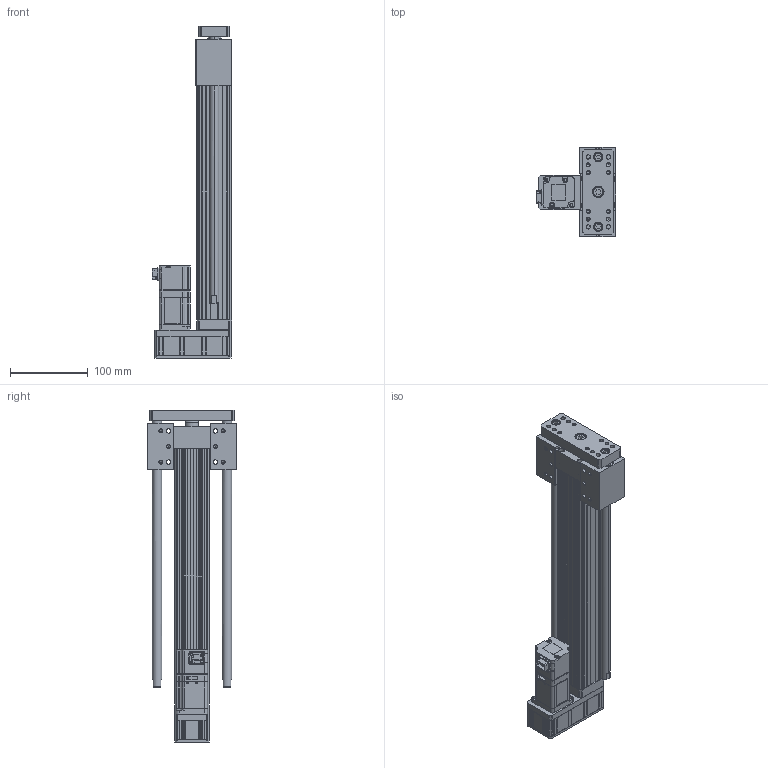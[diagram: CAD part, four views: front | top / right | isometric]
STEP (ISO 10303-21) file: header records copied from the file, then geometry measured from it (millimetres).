
FILE_DESCRIPTION (( 'STEP AP203' ), '1' );
FILE_NAME ('ANS045-HP250-05(10)-W10.STEP', '2019-02-14T03:05:02', ( 'user' ), ( '' ), 'SwSTEP 2.0', 'SolidWorks 2013', '' );
FILE_SCHEMA (( 'CONFIG_CONTROL_DESIGN' ));
Length unit declared in the file: millimetre
Products named in the file (4): ANS045 HP250 VER2; ANS045 ROD ST250 H; SGMJV_01A_A21; ANS045-HP250-05(10)-W10
Assembly tree (3 placements, depth 2):
  ANS045-HP250-05(10)-W10
    ANS045 HP250 VER2
    ANS045 ROD ST250 H
    SGMJV_01A_A21
Bounding box: 102.3 x 115 x 427.5 mm (x, y, z)
Volume: 982607.3 mm3; surface area: 295814.1 mm2
Topology: 3 solids, 11 shells, 1245 faces, 3210 edges, 2044 vertices
Faces by surface type: plane 670, cylinder 431, cone 142, bspline 2
Entity records: 38032 total; most frequent: CARTESIAN_POINT 7187, ORIENTED_EDGE 6380, DIRECTION 6326, EDGE_CURVE 3190, LINE 2140, VECTOR 2140, AXIS2_PLACEMENT_3D 2093, VERTEX_POINT 2044
